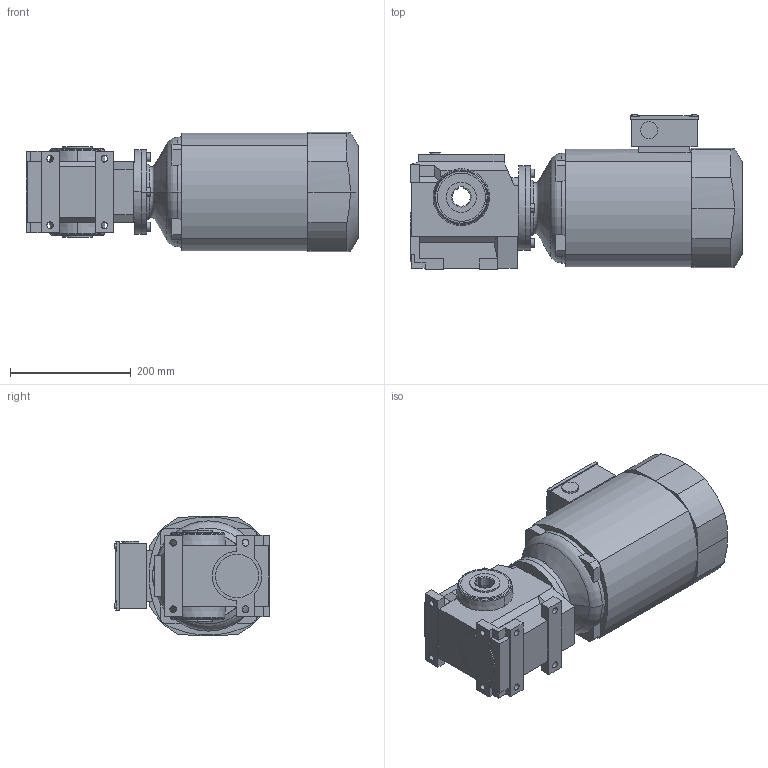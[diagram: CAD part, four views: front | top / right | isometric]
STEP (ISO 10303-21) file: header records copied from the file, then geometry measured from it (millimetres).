
FILE_DESCRIPTION(('STEP AP214'),'1');
FILE_NAME('STEP-File.stp','2018-01-01T00:00:00',(' '),('KEB'),' ','KEB-DRIVE',' ');
FILE_SCHEMA(('AUTOMOTIVE_DESIGN { 1 0 10303 214 1 1 1 1 }'));
Length unit declared in the file: millimetre
Products named in the file (10): s2a; wc_hw_30; wch_slno; cp2; dm112l_kkn; kk08; PLUG_M25; ndm112; S22A DM100LF4§CAD13
Assembly tree (9 placements, depth 2):
  S22A DM100LF4§CAD13
    s2a
    wc_hw_30
    wch_slno
    wch_slno
    cp2
    dm112l_kkn
    kk08
    PLUG_M25
    ndm112
Bounding box: 550.5 x 257.5 x 197.8 mm (x, y, z)
Volume: 14810195.1 mm3; surface area: 732737.1 mm2
Topology: 9 solids, 9 shells, 498 faces, 1507 edges, 1217 vertices
Faces by surface type: plane 351, cylinder 85, cone 48, torus 14
Entity records: 18477 total; most frequent: CARTESIAN_POINT 5053, ORIENTED_EDGE 3014, DIRECTION 2090, EDGE_CURVE 1507, VERTEX_POINT 1217, VECTOR 1174, LINE 1174, EDGE_LOOP 712
